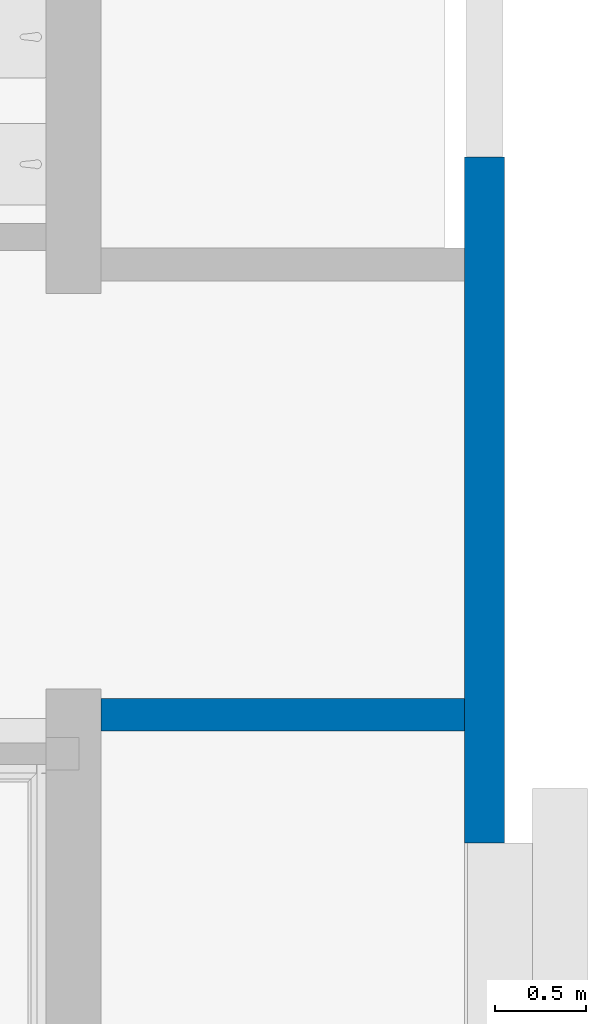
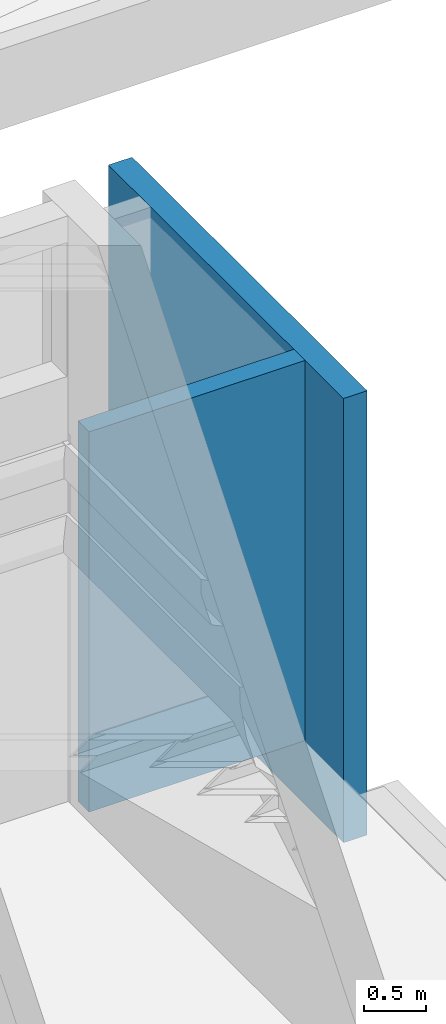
# One storey, part 70 of 117: 2 walls.
"""IFC4 building model written with IfcOpenShell, lengths in metres."""

from ifc_helpers import new_model, entity, si_unit, converted_unit, derived_unit, direction, frame, origin, place, context, subcontext, project, spatial, indexed_curve, outline, extrude, material, type_object, element, save


model = new_model("IFC4")

# Units and contexts
model_context = context("Model", 3, precision=1e-05, world=origin(), true_north=direction((6.123031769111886e-17, 1.0)))
body_context = subcontext(model_context, "Body", "Model", "MODEL_VIEW")
ifc_project = project(units=[si_unit("LENGTHUNIT", "METRE"), si_unit("AREAUNIT", "SQUARE_METRE"), si_unit("VOLUMEUNIT", "CUBIC_METRE"), converted_unit("PLANEANGLEUNIT", "DEGREE", entity("IfcRatioMeasure", 0.017453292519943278), si_unit("PLANEANGLEUNIT", "RADIAN"), dimensions=[0, 0, 0, 0, 0, 0, 0]), si_unit("MASSUNIT", "GRAM", prefix="KILO"), derived_unit("MASSDENSITYUNIT", [(si_unit("MASSUNIT", "GRAM", prefix="KILO"), 1), (si_unit("LENGTHUNIT", "METRE"), -3)]), derived_unit("MOMENTOFINERTIAUNIT", [(si_unit("LENGTHUNIT", "METRE"), 4)]), si_unit("TIMEUNIT", "SECOND"), si_unit("FREQUENCYUNIT", "HERTZ"), si_unit("THERMODYNAMICTEMPERATUREUNIT", "DEGREE_CELSIUS"), derived_unit("THERMALTRANSMITTANCEUNIT", [(si_unit("MASSUNIT", "GRAM", prefix="KILO"), 1), (si_unit("THERMODYNAMICTEMPERATUREUNIT", "KELVIN"), -1), (si_unit("TIMEUNIT", "SECOND"), -3)]), derived_unit("VOLUMETRICFLOWRATEUNIT", [(si_unit("LENGTHUNIT", "METRE"), 3), (si_unit("TIMEUNIT", "SECOND"), -1)]), derived_unit("MASSFLOWRATEUNIT", [(si_unit("MASSUNIT", "GRAM", prefix="KILO"), 1), (si_unit("TIMEUNIT", "SECOND"), -1)]), derived_unit("ROTATIONALFREQUENCYUNIT", [(si_unit("TIMEUNIT", "SECOND"), -1)]), si_unit("ELECTRICCURRENTUNIT", "AMPERE"), si_unit("ELECTRICVOLTAGEUNIT", "VOLT"), si_unit("POWERUNIT", "WATT"), si_unit("FORCEUNIT", "NEWTON", prefix="KILO"), si_unit("ILLUMINANCEUNIT", "LUX"), si_unit("LUMINOUSFLUXUNIT", "LUMEN"), si_unit("LUMINOUSINTENSITYUNIT", "CANDELA"), derived_unit("USERDEFINED", [(si_unit("MASSUNIT", "GRAM", prefix="KILO"), -1), (si_unit("LENGTHUNIT", "METRE"), -2), (si_unit("TIMEUNIT", "SECOND"), 3), (si_unit("LUMINOUSFLUXUNIT", "LUMEN"), 1)]), derived_unit("SOUNDPOWERUNIT", [(si_unit("MASSUNIT", "GRAM", prefix="KILO"), 1), (si_unit("LENGTHUNIT", "METRE"), 2), (si_unit("TIMEUNIT", "SECOND"), -3)]), derived_unit("SOUNDPRESSUREUNIT", [(si_unit("MASSUNIT", "GRAM", prefix="KILO"), 1), (si_unit("LENGTHUNIT", "METRE"), -1), (si_unit("TIMEUNIT", "SECOND"), -2)]), derived_unit("LINEARVELOCITYUNIT", [(si_unit("LENGTHUNIT", "METRE"), 1), (si_unit("TIMEUNIT", "SECOND"), -1)]), si_unit("PRESSUREUNIT", "PASCAL"), derived_unit("USERDEFINED", [(si_unit("LENGTHUNIT", "METRE"), -2), (si_unit("MASSUNIT", "GRAM", prefix="KILO"), 1), (si_unit("TIMEUNIT", "SECOND"), -2)]), derived_unit("LINEARFORCEUNIT", [(si_unit("MASSUNIT", "GRAM", prefix="KILO"), 1), (si_unit("LENGTHUNIT", "METRE"), 1), (si_unit("TIMEUNIT", "SECOND"), -2), (si_unit("LENGTHUNIT", "METRE"), -1)]), derived_unit("PLANARFORCEUNIT", [(si_unit("MASSUNIT", "GRAM", prefix="KILO"), 1), (si_unit("LENGTHUNIT", "METRE"), 1), (si_unit("TIMEUNIT", "SECOND"), -2), (si_unit("LENGTHUNIT", "METRE"), -2)])], contexts=[model_context])

# Site, building, storey
site_placement = place(None, origin())
site = spatial("IfcSite", under=ifc_project, at=site_placement, Name="Superficie", CompositionType="ELEMENT")
building_placement = place(site_placement, origin())
building = spatial("IfcBuilding", under=site, at=building_placement, CompositionType="ELEMENT")
storey_placement = place(building_placement, origin())
storey = spatial("IfcBuildingStorey", under=building, at=storey_placement, Name="Nivel 0", CompositionType="ELEMENT", Elevation=0.0)

# Walls
ifc_material = material(Name="Muro por defecto", Category="Varios")
wall_type_1 = type_object("IfcWallType", Name="Muro básico:Por defecto - 18 cm 2", PredefinedType="STANDARD")
wall_1_placement = place(storey_placement, frame((27.67679901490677, 3.515829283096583, -0.32197584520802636), z_axis=(0.0, 0.0, 1.0), x_axis=(-1.0, 0.0, 0.0)))
element("IfcWall", 1, at=wall_1_placement, inside=storey, type_object=wall_type_1, material=ifc_material, Name="Muro básico:Por defecto - 18 cm 2", ObjectType="Muro básico:Por defecto - 18 cm 2", PredefinedType="NOTDEFINED", context=body_context, shape_type="SweptSolid", body=[
    extrude(outline(indexed_curve([(1.999999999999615, 0.0900000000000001), (2.9290668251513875e-16, 0.09000000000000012), (-2.9290668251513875e-16, -0.09000000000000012), (1.9999999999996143, -0.09000000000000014), (1.999999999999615, 0.0900000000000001)], self_intersect=False)), origin(), (0.0, 0.0, 1.0), 3.7219758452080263),
])
wall_type_2 = type_object("IfcWallType", Name="Muro básico:Por defecto - 22 cm 2", PredefinedType="STANDARD")
wall_2_placement = place(storey_placement, frame((27.78679901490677, 6.580829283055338, -0.9499665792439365), z_axis=(0.0, 0.0, 1.0), x_axis=(0.0, -1.0, 0.0)))
element("IfcWall", 2, at=wall_2_placement, inside=storey, type_object=wall_type_2, material=ifc_material, Name="Muro básico:Por defecto - 22 cm 2", ObjectType="Muro básico:Por defecto - 22 cm 2", PredefinedType="NOTDEFINED", context=body_context, shape_type="SweptSolid", body=[
    extrude(outline(indexed_curve([(3.7699999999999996, 0.11000000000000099), (0.0, 0.11000000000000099), (0.0, -0.11000000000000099), (3.7699999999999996, -0.11000000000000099), (3.7699999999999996, 0.11000000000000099)], self_intersect=False)), origin(), (0.0, 0.0, 1.0), 4.349966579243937),
])

save(model, "model.ifc")
